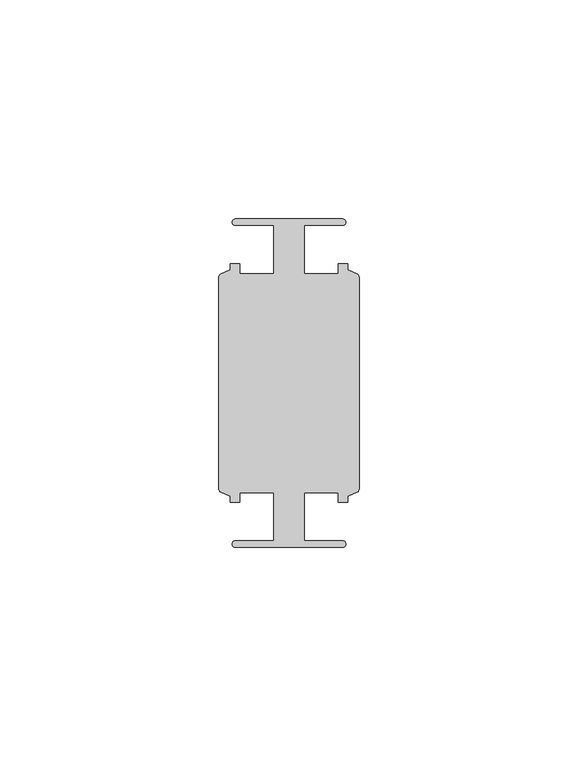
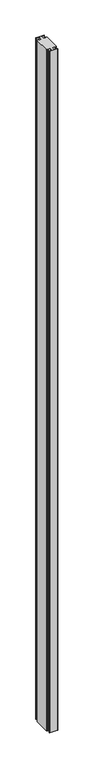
"""IFC4 building model written with IfcOpenShell, lengths in millimetres: member geometry, Прямоугольный импост : 4-AMG-2-Профиль 26Х75 Средний."""

from ifc_helpers import new_model, si_unit, point, frame, frame_2d, origin, place, context, project, spatial, polyline, circle_curve, trimmed, segment, composite_curve, outline, extrude, source, transform, mapped, element, save


def member_e6276f2f(model_context):
    return source(origin(), model_context, "Body", "SweptSolid", [
        extrude(outline(composite_curve([segment(trimmed(circle_curve(frame_2d((12.2876562, 36.75)), 0.75), [point((12.2876562, 37.5))], [point((12.2876562, 36.0))], False, "CARTESIAN"), True, "CONTINUOUS"), segment(polyline([(12.2876562, 36.0), (3.5376562, 36.0), (3.5376562, 25.0), (11.2593767, 25.0), (11.2593767, 27.25), (13.4846403, 27.25), (13.4846403, 25.836597), (15.5572539, 24.9333875)]), True, "CONTINUOUS"), segment(trimmed(circle_curve(frame_2d((15.2376562, 24.2)), 0.8), [point((15.5572539, 24.9333875))], [point((16.0376562, 24.2))], False, "CARTESIAN"), True, "CONTINUOUS"), segment(polyline([(16.0376562, 24.2), (16.0376562, -24.2)]), True, "CONTINUOUS"), segment(trimmed(circle_curve(frame_2d((15.2376562, -24.2)), 0.8), [point((16.0376562, -24.2))], [point((15.5572539, -24.9333875))], False, "CARTESIAN"), True, "CONTINUOUS"), segment(polyline([(15.5572539, -24.9333875), (13.4846403, -25.836597), (13.4846403, -27.25), (11.2593767, -27.25), (11.2593767, -24.9914758), (3.5376562, -24.9914758), (3.5376562, -36.0), (12.2876562, -36.0)]), True, "CONTINUOUS"), segment(trimmed(circle_curve(frame_2d((12.2876562, -36.75)), 0.75), [point((12.2876562, -36.0))], [point((12.2876562, -37.5))], False, "CARTESIAN"), True, "CONTINUOUS"), segment(polyline([(12.2876562, -37.5), (-12.2123438, -37.5)]), True, "CONTINUOUS"), segment(trimmed(circle_curve(frame_2d((-12.2123438, -36.75)), 0.75), [point((-12.2123438, -37.5))], [point((-12.2123438, -36.0))], False, "CARTESIAN"), True, "CONTINUOUS"), segment(polyline([(-12.2123438, -36.0), (-3.4623438, -36.0), (-3.4623438, -24.9913353), (-11.2593767, -24.9913353), (-11.2593767, -27.25), (-13.4093278, -27.25), (-13.4093278, -25.836597), (-15.4819415, -24.9333875)]), True, "CONTINUOUS"), segment(trimmed(circle_curve(frame_2d((-15.1623438, -24.2)), 0.8), [point((-15.4819415, -24.9333875))], [point((-15.9623438, -24.2))], False, "CARTESIAN"), True, "CONTINUOUS"), segment(polyline([(-15.9623438, -24.2), (-15.9623438, 24.2)]), True, "CONTINUOUS"), segment(trimmed(circle_curve(frame_2d((-15.1623438, 24.2)), 0.8), [point((-15.9623438, 24.2))], [point((-15.4819415, 24.9333875))], False, "CARTESIAN"), True, "CONTINUOUS"), segment(polyline([(-15.4819415, 24.9333875), (-13.4093278, 25.836597), (-13.4093278, 27.25), (-11.2593767, 27.25), (-11.2593767, 25.0), (-3.4623438, 25.0), (-3.4623438, 36.0), (-12.2123438, 36.0)]), True, "CONTINUOUS"), segment(trimmed(circle_curve(frame_2d((-12.2123438, 36.75)), 0.75), [point((-12.2123438, 36.0))], [point((-12.2123438, 37.5))], False, "CARTESIAN"), True, "CONTINUOUS"), segment(polyline([(-12.2123438, 37.5), (12.2876562, 37.5)]), True, "CONTINUOUS")], self_intersect=False)), frame((0.0, 0.0, -2282.9376562), z_axis=(0.0, 0.0, 1.0), x_axis=(1.0, 0.0, 0.0)), (0.0, 0.0, 1.0), 2282.9376562),
    ])


if __name__ == "__main__":
    model = new_model("IFC4")
    model_context = context("Model", 3, world=origin())
    ifc_project = project(units=[si_unit("LENGTHUNIT", "METRE", prefix="MILLI")], contexts=[model_context])
    site = spatial("IfcSite", under=ifc_project)
    building = spatial("IfcBuilding", under=site)
    placement = place(None, origin())
    member_shape = member_e6276f2f(model_context)
    element("IfcMember", 1, ObjectType="Прямоугольный импост : 4-AMG-2-Профиль 26Х75 Средний", at=placement, inside=building, context=model_context, shape_type="MappedRepresentation", body=[
        mapped(member_shape, transform((0.0, 0.0, 0.0), x_axis=(1.0, 0.0, 0.0), y_axis=(0.0, 1.0, 0.0), z_axis=(0.0, 0.0, 1.0))),
    ])
    save(model, "model.ifc")
